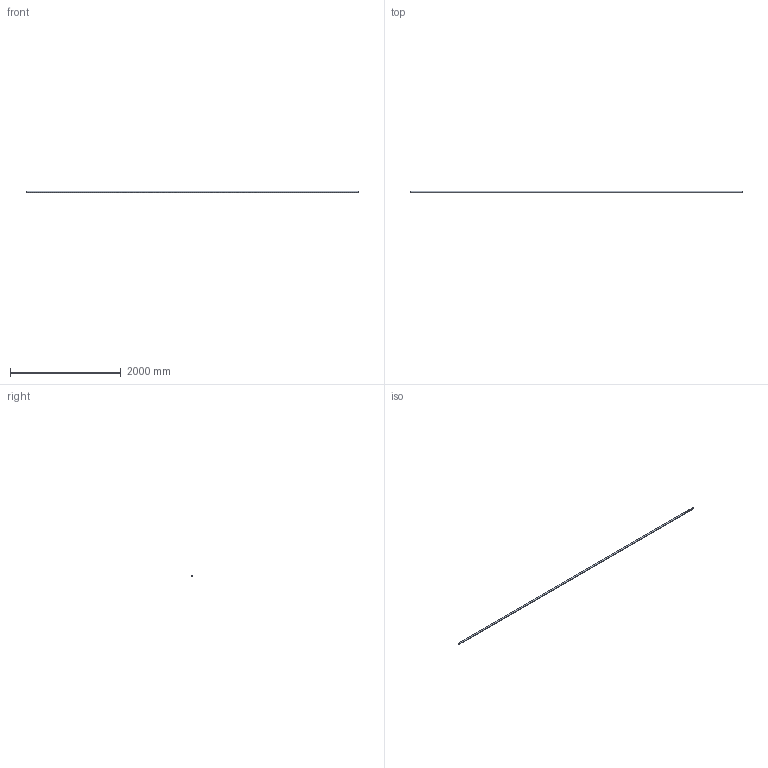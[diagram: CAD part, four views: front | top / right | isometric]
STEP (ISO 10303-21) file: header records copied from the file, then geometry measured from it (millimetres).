
FILE_DESCRIPTION (( 'STEP AP214' ), '1' );
FILE_NAME ('P280000.STEP', '2025-08-17T14:43:04', ( '' ), ( '' ), 'SwSTEP 2.0', 'SolidWorks 2020', '' );
FILE_SCHEMA (( 'AUTOMOTIVE_DESIGN' ));
Length unit declared in the file: millimetre
Products named in the file (1): P280000
Bounding box: 6000 x 28 x 28 mm (x, y, z)
Volume: 606201.7 mm3; surface area: 1010538.3 mm2
Topology: 1 solids, 1 shells, 6 faces, 12 edges, 8 vertices
Faces by surface type: cylinder 4, plane 2
Entity records: 268 total; most frequent: DIRECTION 34, CARTESIAN_POINT 27, ORIENTED_EDGE 24, AXIS2_PLACEMENT_3D 15, EDGE_CURVE 12, UNCERTAINTY_MEASURE_WITH_UNIT 9, SURFACE_STYLE_FILL_AREA 8, SURFACE_STYLE_USAGE 8
